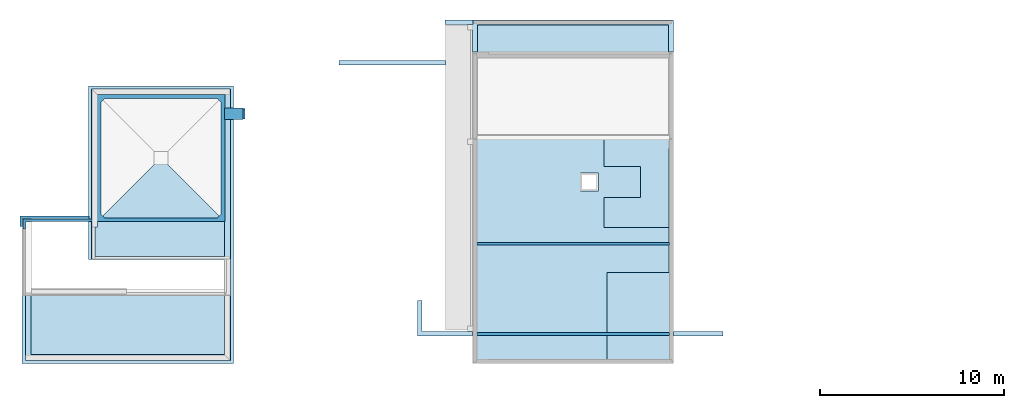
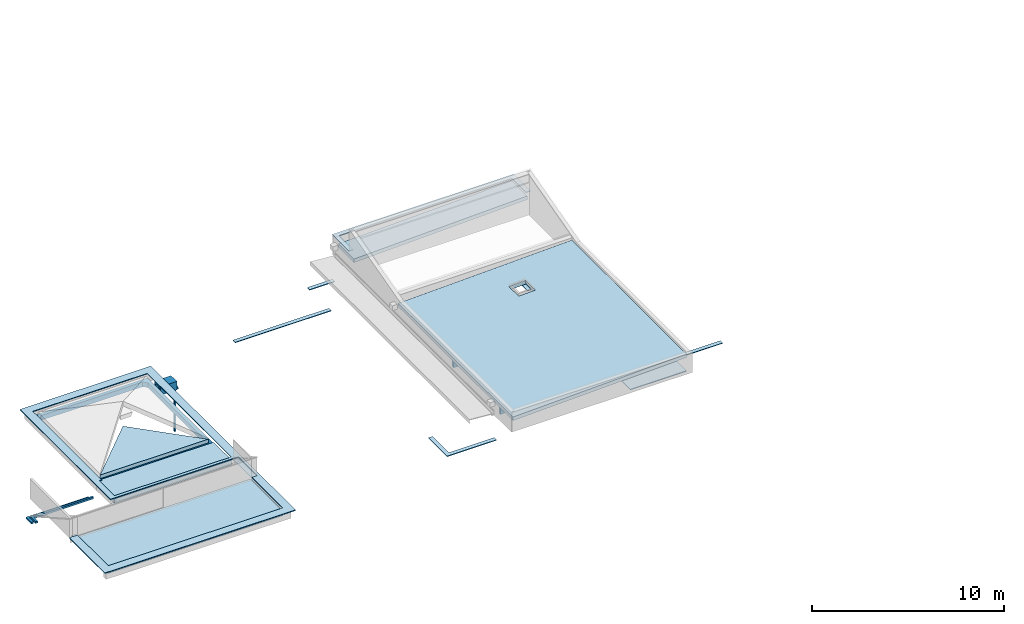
# One storey, part 1 of 8: 17 slabs, 4 beams, 3 openings.
"""IFC2X3 building model written with IfcOpenShell, lengths in metres."""

from ifc_helpers import new_model, entity, si_unit, converted_unit, derived_unit, direction, frame, frame_2d, origin, origin_2d_with_axis, place, context, subcontext, project, spatial, polyline, circle_curve, parameter, trimmed, segment, composite_curve, rectangle, outline, extrude, material, layer, layer_set, layer_usage, type_object, element, save


model = new_model("IFC2X3")

# Units and contexts
model_context = context("Model", 3, precision=1e-05, world=origin(), true_north=direction((6.123031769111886e-17, 1.0)))
body_context = subcontext(model_context, "Body", "Model", "MODEL_VIEW")
ifc_project = project(units=[si_unit("LENGTHUNIT", "METRE"), si_unit("AREAUNIT", "SQUARE_METRE"), si_unit("VOLUMEUNIT", "CUBIC_METRE"), converted_unit("PLANEANGLEUNIT", "DEGREE", entity("IfcRatioMeasure", 0.017453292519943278), si_unit("PLANEANGLEUNIT", "RADIAN"), dimensions=[0, 0, 0, 0, 0, 0, 0]), si_unit("MASSUNIT", "GRAM", prefix="KILO"), derived_unit("MASSDENSITYUNIT", [(si_unit("MASSUNIT", "GRAM", prefix="KILO"), 1), (si_unit("LENGTHUNIT", "METRE"), -3)]), derived_unit("MOMENTOFINERTIAUNIT", [(si_unit("LENGTHUNIT", "METRE"), 4)]), si_unit("TIMEUNIT", "SECOND"), si_unit("FREQUENCYUNIT", "HERTZ"), si_unit("THERMODYNAMICTEMPERATUREUNIT", "DEGREE_CELSIUS"), derived_unit("THERMALTRANSMITTANCEUNIT", [(si_unit("MASSUNIT", "GRAM", prefix="KILO"), 1), (si_unit("THERMODYNAMICTEMPERATUREUNIT", "KELVIN"), -1), (si_unit("TIMEUNIT", "SECOND"), -3)]), derived_unit("THERMALCONDUCTANCEUNIT", [(si_unit("MASSUNIT", "GRAM", prefix="KILO"), 1), (si_unit("LENGTHUNIT", "METRE"), 1), (si_unit("THERMODYNAMICTEMPERATUREUNIT", "KELVIN"), -1), (si_unit("TIMEUNIT", "SECOND"), -3)]), derived_unit("VOLUMETRICFLOWRATEUNIT", [(si_unit("LENGTHUNIT", "METRE"), 3), (si_unit("TIMEUNIT", "SECOND"), -1)]), derived_unit("MASSFLOWRATEUNIT", [(si_unit("MASSUNIT", "GRAM", prefix="KILO"), 1), (si_unit("TIMEUNIT", "SECOND"), -1)]), derived_unit("ROTATIONALFREQUENCYUNIT", [(si_unit("TIMEUNIT", "SECOND"), -1)]), si_unit("ELECTRICCURRENTUNIT", "AMPERE"), si_unit("ELECTRICVOLTAGEUNIT", "VOLT"), si_unit("POWERUNIT", "WATT"), si_unit("FORCEUNIT", "NEWTON", prefix="KILO"), si_unit("ILLUMINANCEUNIT", "LUX"), si_unit("LUMINOUSFLUXUNIT", "LUMEN"), si_unit("LUMINOUSINTENSITYUNIT", "CANDELA"), derived_unit("USERDEFINED", [(si_unit("MASSUNIT", "GRAM", prefix="KILO"), -1), (si_unit("LENGTHUNIT", "METRE"), -2), (si_unit("TIMEUNIT", "SECOND"), 3), (si_unit("LUMINOUSFLUXUNIT", "LUMEN"), 1)]), derived_unit("USERDEFINED", [(si_unit("MASSUNIT", "GRAM", prefix="KILO"), 1), (si_unit("LENGTHUNIT", "METRE"), 3), (si_unit("TIMEUNIT", "SECOND"), -3), (si_unit("ELECTRICCURRENTUNIT", "AMPERE"), -2)]), derived_unit("USERDEFINED", [(si_unit("LENGTHUNIT", "METRE"), 2), (si_unit("TIMEUNIT", "SECOND"), -2)]), derived_unit("SOUNDPOWERUNIT", [(si_unit("MASSUNIT", "GRAM", prefix="KILO"), 1), (si_unit("LENGTHUNIT", "METRE"), 2), (si_unit("TIMEUNIT", "SECOND"), -3)]), derived_unit("SOUNDPRESSUREUNIT", [(si_unit("MASSUNIT", "GRAM", prefix="KILO"), 1), (si_unit("LENGTHUNIT", "METRE"), -1), (si_unit("TIMEUNIT", "SECOND"), -2)]), derived_unit("LINEARVELOCITYUNIT", [(si_unit("LENGTHUNIT", "METRE"), 1), (si_unit("TIMEUNIT", "SECOND"), -1)]), si_unit("PRESSUREUNIT", "PASCAL"), derived_unit("USERDEFINED", [(si_unit("LENGTHUNIT", "METRE"), -2), (si_unit("MASSUNIT", "GRAM", prefix="KILO"), 1), (si_unit("TIMEUNIT", "SECOND"), -2)]), derived_unit("LINEARFORCEUNIT", [(si_unit("MASSUNIT", "GRAM", prefix="KILO"), 1), (si_unit("LENGTHUNIT", "METRE"), 1), (si_unit("TIMEUNIT", "SECOND"), -2), (si_unit("LENGTHUNIT", "METRE"), -1)]), derived_unit("PLANARFORCEUNIT", [(si_unit("MASSUNIT", "GRAM", prefix="KILO"), 1), (si_unit("LENGTHUNIT", "METRE"), 1), (si_unit("TIMEUNIT", "SECOND"), -2), (si_unit("LENGTHUNIT", "METRE"), -2)]), derived_unit("SPECIFICHEATCAPACITYUNIT", [(si_unit("LENGTHUNIT", "METRE"), 2), (si_unit("TIMEUNIT", "SECOND"), -2), (si_unit("THERMODYNAMICTEMPERATUREUNIT", "KELVIN"), -1)]), derived_unit("VAPORPERMEABILITYUNIT", [(si_unit("TIMEUNIT", "SECOND"), 1), (si_unit("LENGTHUNIT", "METRE"), -1)]), derived_unit("DYNAMICVISCOSITYUNIT", [(si_unit("MASSUNIT", "GRAM", prefix="KILO"), 1), (si_unit("LENGTHUNIT", "METRE"), -1), (si_unit("TIMEUNIT", "SECOND"), -1)]), derived_unit("THERMALEXPANSIONCOEFFICIENTUNIT", [(si_unit("THERMODYNAMICTEMPERATUREUNIT", "KELVIN"), -1)])], contexts=[model_context])

# Site, building, storey
site_placement = place(None, origin())
site = spatial("IfcSite", under=ifc_project, at=site_placement, Name="Default", CompositionType="ELEMENT")
building_placement = place(site_placement, origin())
building = spatial("IfcBuilding", under=site, at=building_placement, CompositionType="ELEMENT")
storey_placement = place(building_placement, frame((0.0, 0.0, 6.059999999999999)))
storey = spatial("IfcBuildingStorey", under=building, at=storey_placement, Name="TOITURE", CompositionType="ELEMENT", Elevation=6.059999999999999)

# Beams
ifc_material_1 = material(Name="Bois - Pin granuleux horizontal")
beam_type_1 = type_object("IfcBeamType", Name="Poutre-013 825176:Poutre-013 825176", PredefinedType="NOTDEFINED")
beam_1_placement = place(storey_placement, origin())
element("IfcBeam", 1, at=beam_1_placement, inside=storey, type_object=beam_type_1, material=ifc_material_1, Name="Poutre-013", ObjectType="Poutre-013 825176:Poutre-013 825176", context=body_context, shape_type="SweptSolid", body=[
    extrude(outline(polyline([(-5.227204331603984, -0.20000000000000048), (5.241172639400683, -0.20000000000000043), (5.227204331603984, 0.20000000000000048), (-5.241172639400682, 0.19999999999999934), (-5.227204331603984, -0.20000000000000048)])), frame((146.8507522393, 9.112209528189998, 1.2225486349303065), z_axis=(0.0, 1.0, 0.0), x_axis=(0.9993908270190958, 0.0, 0.03489949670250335)), (0.0, 0.0, 1.0), 0.15000000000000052),
])
ifc_material_2 = material(Name="Peinture - Jade pâle")
beam_type_2 = type_object("IfcBeamType", Name="Poutre-010 250417:Poutre-010 250417", PredefinedType="NOTDEFINED")
beam_2_placement = place(storey_placement, origin())
element("IfcBeam", 2, at=beam_2_placement, inside=storey, type_object=beam_type_2, material=ifc_material_2, Name="Poutre-002", ObjectType="Poutre-010 250417:Poutre-010 250417", context=body_context, shape_type="SweptSolid", body=[
    extrude(outline(composite_curve([segment(polyline([(0.7181249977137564, -0.27750000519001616), (0.813958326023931, -0.277500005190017)]), True, "CONTINUOUS"), segment(trimmed(circle_curve(frame_2d((0.3087797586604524, -0.0024999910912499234), x_axis=(0.8782986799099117, 0.4781123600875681)), 0.575178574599), [parameter(302.87561741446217)], [parameter(359.99999999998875)], True, "PARAMETER"), True, "CONTINUOUS"), segment(polyline([(0.8139583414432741, 0.27249999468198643), (0.71812500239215, 0.27249999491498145)]), True, "CONTINUOUS"), segment(polyline([(0.71812500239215, 0.27249999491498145), (0.5839583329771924, 0.05249999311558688)]), True, "CONTINUOUS"), segment(polyline([(0.5839583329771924, 0.05249999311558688), (-2.1160416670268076, 0.0525000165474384)]), True, "CONTINUOUS"), segment(polyline([(-2.1160416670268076, 0.0525000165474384), (-2.116041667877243, -0.04749998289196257)]), True, "CONTINUOUS"), segment(polyline([(-2.116041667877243, -0.04749998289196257), (0.5839583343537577, -0.04750000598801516)]), True, "CONTINUOUS"), segment(polyline([(0.5839583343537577, -0.04750000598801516), (0.7181249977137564, -0.27750000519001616)]), True, "CONTINUOUS")], self_intersect=False)), frame((128.900752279, 21.14970948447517, -0.9639583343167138), z_axis=(1.0, 0.0, 0.0), x_axis=(0.0, -8.50435300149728e-09, 1.0)), (0.0, 0.0, 1.0), 0.0999999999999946),
])
ifc_material_3 = material(Name="Enduit - Beige nature")
beam_type_3 = type_object("IfcBeamType", Name="Poutre-004 250637:Poutre-004 250637", PredefinedType="NOTDEFINED")
beam_3_placement = place(storey_placement, origin())
element("IfcBeam", 3, at=beam_3_placement, inside=storey, type_object=beam_type_3, material=ifc_material_3, Name="Poutre-002", ObjectType="Poutre-004 250637:Poutre-004 250637", context=body_context, shape_type="SweptSolid", body=[
    extrude(outline(polyline([(-0.26999999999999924, -0.30999999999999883), (0.27000000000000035, -0.30999999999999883), (0.27000000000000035, 0.31000000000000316), (-0.26999999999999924, 0.31000000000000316), (-0.26999999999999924, -0.30999999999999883)]), holes=[polyline([(0.17000000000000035, 0.22000000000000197), (0.17000000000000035, -0.21999999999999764), (-0.16999999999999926, -0.2099999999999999), (-0.18999999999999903, 0.0), (-0.16999999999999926, 0.2099999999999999), (0.17000000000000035, 0.22000000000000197)])]), frame((127.90075228, 21.1522094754, 0.019999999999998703), z_axis=(1.0, 0.0, 0.0), x_axis=(0.0, 0.0, 1.0)), (0.0, 0.0, 1.0), 0.9999999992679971),
])
beam_type_4 = type_object("IfcBeamType", Name="Poutre-013 804316:Poutre-013 804316", PredefinedType="NOTDEFINED")
beam_4_placement = place(storey_placement, origin())
element("IfcBeam", 4, at=beam_4_placement, inside=storey, type_object=beam_type_4, material=ifc_material_1, Name="Poutre-013", ObjectType="Poutre-013 804316:Poutre-013 804316", context=body_context, shape_type="SweptSolid", body=[
    extrude(outline(polyline([(-5.227204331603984, -0.20000000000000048), (5.241172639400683, -0.20000000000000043), (5.227204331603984, 0.20000000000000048), (-5.241172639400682, 0.19999999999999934), (-5.227204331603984, -0.20000000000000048)])), frame((146.8507522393, 14.012209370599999, 1.2225486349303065), z_axis=(0.0, 1.0, 0.0), x_axis=(0.9993908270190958, 0.0, 0.03489949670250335)), (0.0, 0.0, 1.0), 0.15000000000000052),
])

# Slabs
ifc_material_4 = material(Name="Peinture - Gris clair")
slab_type_1 = type_object("IfcSlabType", Name="Toit-01", PredefinedType="ROOF", material=ifc_material_4)
slab_1_placement = place(storey_placement, origin())
element("IfcSlab", 5, at=slab_1_placement, inside=storey, type_object=slab_type_1, Name="Toit-01 804010:Toit-01 804010", ObjectType="Toit-01 804010:Toit-01 804010", PredefinedType="ROOF", context=body_context, shape_type="SweptSolid", body=[
    extrude(outline(polyline([(-5.981500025, -5.234203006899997), (5.981500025, -5.234203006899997), (5.981500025, 5.234203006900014), (-5.981500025, 5.234203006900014), (-5.981500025, -5.234203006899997)]), holes=[polyline([(3.1595000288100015, -1.398288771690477), (3.1595000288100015, -0.39828877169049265), (4.159500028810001, -0.39828877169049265), (4.159500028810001, -1.398288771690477), (3.1595000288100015, -1.398288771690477)])]), frame((146.85075228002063, 13.787709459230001, 1.4230850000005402), z_axis=(-0.03497858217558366, 0.0, 0.9993880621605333), x_axis=(0.0, 1.0, 0.0)), (0.0, 0.0, 1.0), 0.2301408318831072),
])
slab_type_2 = type_object("IfcSlabType", Name="Toit-01", PredefinedType="ROOF", material=ifc_material_4)
slab_2_placement = place(storey_placement, origin())
element("IfcSlab", 6, at=slab_2_placement, inside=storey, type_object=slab_type_2, Name="Toit-01 831350:Toit-01 831350", ObjectType="Toit-01 831350:Toit-01 831350", PredefinedType="ROOF", context=body_context, shape_type="SweptSolid", body=[
    extrude(rectangle(XDim=0.2301408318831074, YDim=1.6130000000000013, at=frame_2d((-5.412337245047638e-16, -2.1649348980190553e-15), x_axis=(1.0, 0.0))), frame((141.61572728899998, 25.21170948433, 1.354999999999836), z_axis=(0.9993880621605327, 0.0, 0.03497858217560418), x_axis=(0.03497858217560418, 0.0, -0.9993880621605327)), (0.0, 0.0, 1.0), 10.468405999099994),
])

# Slab, opening
ifc_material_5 = material(Name="Métal - Zinc")
ifc_layer_1 = layer(ifc_material_5, 0.00869412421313)
ifc_layer_set_1 = layer_set([ifc_layer_1], Name="Toit de base:Toit-01")
ifc_layer_usage_1 = layer_usage(ifc_layer_set_1, "AXIS3", "NEGATIVE", 0.0)
slab_type_3 = type_object("IfcSlabType", Name="Toit-01", PredefinedType="ROOF")
slab_3_placement = place(storey_placement, origin())
slab_3 = element("IfcSlab", 7, at=slab_3_placement, inside=storey, type_object=slab_type_3, material=ifc_layer_usage_1, Name="Toit de base:Toit-01", ObjectType="Toit de base:Toit-01", PredefinedType="ROOF", context=body_context, shape_type="SweptSolid", body=[
    extrude(outline(polyline([(-5.9680000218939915, -9.912000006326), (1.571999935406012, -9.912000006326), (1.571999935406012, -0.6420000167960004), (-5.647999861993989, -0.6420000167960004), (-5.647999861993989, 4.538000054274), (4.8620000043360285, 4.538000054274), (4.8620000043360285, 1.1579999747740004), (5.181999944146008, 1.1579999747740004), (5.181999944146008, 4.857999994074), (-5.9680000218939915, 4.857999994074), (-5.9680000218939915, -9.912000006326)])), frame((122.242752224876, 12.595209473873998, 0.29000000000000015), z_axis=(0.0, 0.0, 1.0), x_axis=(-1.0, 0.0, 0.0)), (0.0, 0.0, 1.0), 0.008694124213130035),
])
opening_1_placement = place(storey_placement, origin())
element("IfcOpeningElement", 8, at=opening_1_placement, cuts=slab_3, Name="Toit de base:Toit-01:1", ObjectType="Opening", context=body_context, shape_type="SweptSolid", body=[
    extrude(outline(polyline([(-2.3933332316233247, -3.4466666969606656), (4.646666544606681, -3.4466666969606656), (4.646666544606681, 5.32333333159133), (-2.253333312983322, 5.32333333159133), (-2.253333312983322, -1.8766666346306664), (-2.3933332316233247, -1.8766666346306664), (-2.3933332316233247, -3.4466666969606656)])), frame((123.2440855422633, 16.863876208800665, 0.29000000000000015)), (0.0, 0.0, 1.0), 0.008694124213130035),
])

ifc_layer_2 = layer(ifc_material_5, 0.05)
ifc_layer_set_2 = layer_set([ifc_layer_2], Name="Toit de base:Toit-01:1559")
ifc_layer_usage_2 = layer_usage(ifc_layer_set_2, "AXIS3", "NEGATIVE", 0.0)
slab_type_4 = type_object("IfcSlabType", Name="Toit-01", PredefinedType="ROOF")
slab_4_placement = place(storey_placement, origin())
slab_4 = element("IfcSlab", 9, at=slab_4_placement, inside=storey, type_object=slab_type_4, material=ifc_layer_usage_2, Name="Toit de base:Toit-01:1559", ObjectType="Toit de base:Toit-01:1559", PredefinedType="ROOF", context=body_context, shape_type="SweptSolid", body=[
    extrude(outline(polyline([(-4.781666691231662, -5.171666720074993), (10.328333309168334, -5.171666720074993), (10.328333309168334, 2.708333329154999), (0.8883332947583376, 2.708333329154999), (0.8883332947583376, -5.001666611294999), (-1.0716666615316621, -5.001666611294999), (-1.0716666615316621, -4.681666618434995), (-4.291666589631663, -4.681666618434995), (-4.291666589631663, 5.828333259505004), (-1.0716666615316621, 5.828333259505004), (-1.0716666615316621, 6.318333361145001), (-4.781666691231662, 6.318333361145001), (-4.781666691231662, -5.171666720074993)])), frame((123.20908564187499, 12.34887617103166, 0.2899999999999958), z_axis=(0.0, 0.0, 1.0), x_axis=(0.0, 1.0, 0.0)), (0.0, 0.0, 1.0), 0.050000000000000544),
])
opening_2_placement = place(storey_placement, origin())
element("IfcOpeningElement", 10, at=opening_2_placement, cuts=slab_4, Name="Toit de base:Toit-01:1559:1", ObjectType="Opening", context=body_context, shape_type="SweptSolid", body=[
    extrude(outline(polyline([(-2.3933333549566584, -3.446666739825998), (4.64666671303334, -3.446666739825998), (4.64666671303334, 5.3233334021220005), (-2.2533333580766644, 5.3233334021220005), (-2.2533333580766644, -1.8766666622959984), (-2.3933333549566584, -1.8766666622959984), (-2.3933333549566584, -3.446666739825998)])), frame((123.24408554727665, 16.863876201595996, 0.28999999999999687)), (0.0, 0.0, 1.0), 0.050000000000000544),
])

# Slab
slab_5_placement = place(storey_placement, origin())
element("IfcSlab", 11, at=slab_5_placement, inside=storey, type_object=slab_type_4, material=ifc_layer_usage_2, Name="Toit de base:Toit-01:1559", ObjectType="Toit de base:Toit-01:1559", PredefinedType="ROOF", context=body_context, shape_type="SweptSolid", body=[
    extrude(outline(polyline([(-5.47022343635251, -0.8032202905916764), (-5.199776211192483, -0.8032202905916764), (-5.199776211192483, 0.6668490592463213), (5.200223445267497, 0.6668490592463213), (5.200223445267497, -0.8004083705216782), (5.469776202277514, -0.8004083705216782), (5.469776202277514, 0.9367796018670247), (-5.47022343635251, 0.9367796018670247), (-5.47022343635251, -0.8032202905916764)])), frame((146.85097109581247, 25.31886082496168, 1.9599999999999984)), (0.0, 0.0, 1.0), 0.050000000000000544),
])

# Slab, opening
ifc_material_6 = material(Name="Appareillage - Pierre taillé")
ifc_layer_3 = layer(ifc_material_6, 0.29999999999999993)
ifc_layer_set_3 = layer_set([ifc_layer_3], Name="Sol:Dalle-004")
ifc_layer_usage_3 = layer_usage(ifc_layer_set_3, "AXIS3", "POSITIVE", 0.0)
slab_type_5 = type_object("IfcSlabType", Name="Sol:Dalle-004", PredefinedType="FLOOR", material=ifc_layer_set_3)
slab_6_placement = place(storey_placement, frame((120.97075226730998, 15.28720948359, -0.2599999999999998)))
slab_6 = element("IfcSlab", 12, at=slab_6_placement, inside=storey, type_object=slab_type_5, material=ifc_layer_usage_3, Name="Sol:Dalle-004", ObjectType="Sol:Dalle-004", PredefinedType="FLOOR", context=body_context, shape_type="SweptSolid", body=[
    extrude(rectangle(XDim=6.940000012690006, YDim=6.920000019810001, at=origin_2d_with_axis()), frame((3.470000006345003, 3.4600000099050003, 0.30000000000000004), z_axis=(0.0, 0.0, -1.0), x_axis=(-1.0, 0.0, 0.0)), (0.0, 0.0, 1.0), 0.30000000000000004),
])
opening_3_placement = place(slab_6_placement, frame((3.470000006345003, 3.4599999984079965, 0.30000000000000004)))
element("IfcOpeningElement", 13, at=opening_3_placement, cuts=slab_6, Name="Sol:Dalle-004:2", ObjectType="Opening", context=body_context, shape_type="SweptSolid", body=[
    extrude(outline(polyline([(-3.0600000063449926, -3.2499999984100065), (3.06000000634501, -3.2499999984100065), (3.2600000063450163, -3.0499999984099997), (3.2600000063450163, 3.049999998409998), (3.06000000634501, 3.249999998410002), (-3.0600000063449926, 3.249999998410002), (-3.260000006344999, 3.049999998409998), (-3.260000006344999, -3.0499999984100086), (-3.0600000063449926, -3.2499999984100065)])), frame((0.0, 0.0, 0.0), z_axis=(0.0, 0.0, -1.0), x_axis=(1.0, 0.0, 0.0)), (0.0, 0.0, 1.0), 0.30000000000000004),
])

# Slabs
ifc_material_7 = material(Name="Toit - Tuiles françaises rouges")
ifc_layer_4 = layer(ifc_material_7, 0.271924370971)
ifc_layer_set_4 = layer_set([ifc_layer_4], Name="Toit de base:Toit-01:1534")
ifc_layer_usage_4 = layer_usage(ifc_layer_set_4, "AXIS3", "NEGATIVE", 0.0)
slab_type_6 = type_object("IfcSlabType", Name="Toit-01", PredefinedType="ROOF")
slab_7_placement = place(storey_placement, origin())
element("IfcSlab", 14, at=slab_7_placement, inside=storey, type_object=slab_type_6, material=ifc_layer_usage_4, Name="Toit de base:Toit-01:1534", ObjectType="Toit de base:Toit-01:1534", PredefinedType="ROOF", context=body_context, shape_type="SweptSolid", body=[
    extrude(outline(polyline([(-0.010000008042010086, -1.6249999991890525), (0.010000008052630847, -1.6249999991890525), (3.2600000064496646, 1.6249999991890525), (-3.2600000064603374, 1.6249999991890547), (-0.010000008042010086, -1.6249999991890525)])), frame((124.44075227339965, 17.122209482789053, 0.0), z_axis=(0.0, 0.0, 1.0), x_axis=(-1.0, 0.0, 0.0)), (0.0, 0.0, 1.0), 0.27192437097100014),
])
ifc_material_8 = material(Name="Etanchéité - Membrane souple")
ifc_layer_5 = layer(ifc_material_8, 0.005)
ifc_material_9 = material(Name="Isolation - Fibre de verre")
ifc_layer_6 = layer(ifc_material_9, 0.09499999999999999)
ifc_layer_7 = layer(ifc_material_6, 0.2)
ifc_layer_set_5 = layer_set([ifc_layer_5, ifc_layer_6, ifc_layer_7], Name="Sol:Dalle-007:1542")
ifc_layer_usage_5 = layer_usage(ifc_layer_set_5, "AXIS3", "POSITIVE", 0.0)
slab_type_7 = type_object("IfcSlabType", Name="Sol:Dalle-007:1542", PredefinedType="FLOOR", material=ifc_layer_set_5)
slab_8_placement = place(storey_placement, origin())
element("IfcSlab", 15, at=slab_8_placement, inside=storey, type_object=slab_type_7, material=ifc_layer_usage_5, Name="Sol:Dalle-007:1542", ObjectType="Sol:Dalle-007:1542", PredefinedType="FLOOR", context=body_context, shape_type="SweptSolid", body=[
    extrude(rectangle(XDim=3.3899999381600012, YDim=10.540000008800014, at=origin_2d_with_axis()), frame((122.6307522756, 9.74220944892, 0.14000000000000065), z_axis=(0.0, 0.0, -1.0), x_axis=(0.0, 1.0, 0.0)), (0.0, 0.0, 1.0), 0.30000000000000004),
])
slab_9_placement = place(storey_placement, origin())
element("IfcSlab", 16, at=slab_9_placement, inside=storey, type_object=slab_type_7, material=ifc_layer_usage_5, Name="Sol:Dalle-007:1542", ObjectType="Sol:Dalle-007:1542", PredefinedType="FLOOR", context=body_context, shape_type="SweptSolid", body=[
    extrude(outline(polyline([(-1.156666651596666, -2.4000000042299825), (0.4333333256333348, -2.4000000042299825), (0.4333333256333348, -2.2600000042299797), (0.7233333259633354, -2.2600000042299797), (0.7233333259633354, 4.660000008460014), (-1.156666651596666, 4.660000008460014), (-1.156666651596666, -2.4000000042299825)])), frame((123.24075227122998, 14.563876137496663, 0.13999999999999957), z_axis=(0.0, 0.0, -1.0), x_axis=(0.0, 1.0, 0.0)), (0.0, 0.0, 1.0), 0.30000000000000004),
])
ifc_layer_8 = layer(ifc_material_5, 0.12)
ifc_layer_set_6 = layer_set([ifc_layer_8], Name="Toit de base:Toit-01:1728")
ifc_layer_usage_6 = layer_usage(ifc_layer_set_6, "AXIS3", "NEGATIVE", 0.0)
slab_type_8 = type_object("IfcSlabType", Name="Toit-01", PredefinedType="ROOF")
slab_10_placement = place(storey_placement, origin())
element("IfcSlab", 17, at=slab_10_placement, inside=storey, type_object=slab_type_8, material=ifc_layer_usage_6, Name="Toit de base:Toit-01:1728", ObjectType="Toit de base:Toit-01:1728", PredefinedType="ROOF", context=body_context, shape_type="SweptSolid", body=[
    extrude(outline(polyline([(-2.4533333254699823, -0.22333332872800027), (1.2966666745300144, -0.22333332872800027), (1.2966666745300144, 0.32666665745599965), (1.1566666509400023, 0.32666665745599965), (1.1566666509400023, -0.10333332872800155), (-2.4533333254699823, -0.10333332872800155), (-2.4533333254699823, -0.22333332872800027)])), frame((118.2274189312, 15.203876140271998, -0.9599999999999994), z_axis=(0.0, 0.0, 1.0), x_axis=(-1.0, 0.0, 0.0)), (0.0, 0.0, 1.0), 0.11999999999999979),
])
ifc_material_10 = material(Name="Plâtre - Plaques de plâtre")
ifc_layer_9 = layer(ifc_material_10, 0.05)
ifc_layer_set_7 = layer_set([ifc_layer_9], Name="Sol:Dalle-005:1730")
ifc_layer_usage_7 = layer_usage(ifc_layer_set_7, "AXIS3", "POSITIVE", 0.0)
slab_type_9 = type_object("IfcSlabType", Name="Sol:Dalle-005:1730", PredefinedType="FLOOR", material=ifc_layer_set_7)
slab_11_placement = place(storey_placement, origin())
element("IfcSlab", 18, at=slab_11_placement, inside=storey, type_object=slab_type_9, material=ifc_layer_usage_7, Name="Sol:Dalle-005:1730", ObjectType="Sol:Dalle-005:1730", PredefinedType="FLOOR", context=body_context, shape_type="SweptSolid", body=[
    extrude(rectangle(XDim=4.710999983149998, YDim=3.3909999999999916, at=frame_2d((-6.661338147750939e-16, -8.659739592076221e-15), x_axis=(1.0, 0.0))), frame((150.38625228, 10.161709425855, 0.7599999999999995), z_axis=(0.0, 0.0, -1.0), x_axis=(0.0, 1.0, 0.0)), (0.0, 0.0, 1.0), 0.04999999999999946),
])
slab_12_placement = place(storey_placement, origin())
element("IfcSlab", 19, at=slab_12_placement, inside=storey, type_object=slab_type_9, material=ifc_layer_usage_7, Name="Sol:Dalle-005:1730", ObjectType="Sol:Dalle-005:1730", PredefinedType="FLOOR", context=body_context, shape_type="SweptSolid", body=[
    extrude(outline(polyline([(0.8299999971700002, -1.3775000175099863), (2.4800000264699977, -1.3775000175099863), (2.4800000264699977, 2.1525000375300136), (-2.480000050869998, 2.1525000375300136), (-2.480000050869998, -1.3775000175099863), (-0.8299999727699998, -1.3775000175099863), (-0.8299999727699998, 0.6024999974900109), (0.8299999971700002, 0.6024999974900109), (0.8299999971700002, -1.3775000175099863)])), frame((149.91825226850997, 17.447209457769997, 0.7600000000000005), z_axis=(0.0, 0.0, -1.0), x_axis=(0.0, 1.0, 0.0)), (0.0, 0.0, 1.0), 0.04999999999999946),
])
ifc_layer_10 = layer(ifc_material_5, 0.04)
ifc_layer_set_8 = layer_set([ifc_layer_10], Name="Toit de base:Toit-01:1731")
ifc_layer_usage_8 = layer_usage(ifc_layer_set_8, "AXIS3", "NEGATIVE", 0.0)
slab_type_10 = type_object("IfcSlabType", Name="Toit-01", PredefinedType="ROOF")
slab_13_placement = place(storey_placement, origin())
element("IfcSlab", 20, at=slab_13_placement, inside=storey, type_object=slab_type_10, material=ifc_layer_usage_8, Name="Toit de base:Toit-01:1731", ObjectType="Toit de base:Toit-01:1731", PredefinedType="ROOF", context=body_context, shape_type="SweptSolid", body=[
    extrude(rectangle(XDim=2.694999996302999, YDim=0.23999999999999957, at=origin_2d_with_axis()), frame((153.6482522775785, 9.18720952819, 0.71)), (0.0, 0.0, 1.0), 0.03999999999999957),
])
slab_14_placement = place(storey_placement, origin())
element("IfcSlab", 21, at=slab_14_placement, inside=storey, type_object=slab_type_10, material=ifc_layer_usage_8, Name="Toit de base:Toit-01:1731", ObjectType="Toit de base:Toit-01:1731", PredefinedType="ROOF", context=body_context, shape_type="SweptSolid", body=[
    extrude(outline(polyline([(-0.7266666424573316, -1.9133333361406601), (-0.4866666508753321, -1.9133333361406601), (-0.4866666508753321, 0.836666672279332), (1.213333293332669, 0.836666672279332), (1.213333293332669, 1.0766666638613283), (-0.7266666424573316, 1.0766666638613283), (-0.7266666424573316, -1.9133333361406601)])), frame((139.4574189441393, 9.793876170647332, -0.6900000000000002), z_axis=(0.0, 0.0, 1.0), x_axis=(0.0, 1.0, 0.0)), (0.0, 0.0, 1.0), 0.03999999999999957),
])
slab_15_placement = place(storey_placement, origin())
element("IfcSlab", 22, at=slab_15_placement, inside=storey, type_object=slab_type_10, material=ifc_layer_usage_8, Name="Toit de base:Toit-01:1731", ObjectType="Toit de base:Toit-01:1731", PredefinedType="ROOF", context=body_context, shape_type="SweptSolid", body=[
    extrude(rectangle(XDim=0.24000011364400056, YDim=5.789999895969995, at=frame_2d((0.0, 8.659739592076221e-15), x_axis=(1.0, 0.0))), frame((137.02575233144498, 23.937183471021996, -0.8899999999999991), z_axis=(0.0, 0.0, 1.0), x_axis=(0.0, -1.0, 0.0)), (0.0, 0.0, 1.0), 0.03999999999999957),
])
slab_16_placement = place(storey_placement, origin())
element("IfcSlab", 23, at=slab_16_placement, inside=storey, type_object=slab_type_10, material=ifc_layer_usage_8, Name="Toit de base:Toit-01:1731", ObjectType="Toit de base:Toit-01:1731", PredefinedType="ROOF", context=body_context, shape_type="SweptSolid", body=[
    extrude(rectangle(XDim=0.24000011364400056, YDim=1.5199998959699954, at=frame_2d((0.0, 8.659739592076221e-15), x_axis=(1.0, 0.0))), frame((140.640752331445, 26.137209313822, -0.8899999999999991), z_axis=(0.0, 0.0, 1.0), x_axis=(0.0, -1.0, 0.0)), (0.0, 0.0, 1.0), 0.03999999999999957),
])
ifc_material_11 = material(Name="Métal - Fer")
ifc_layer_11 = layer(ifc_material_11, 0.12)
ifc_layer_set_9 = layer_set([ifc_layer_11], Name="Toit de base:Toit-01:1736")
ifc_layer_usage_9 = layer_usage(ifc_layer_set_9, "AXIS3", "NEGATIVE", 0.0)
slab_type_11 = type_object("IfcSlabType", Name="Toit-01", PredefinedType="ROOF")
slab_17_placement = place(storey_placement, origin())
element("IfcSlab", 24, at=slab_17_placement, inside=storey, type_object=slab_type_11, material=ifc_layer_usage_9, Name="Toit de base:Toit-01:1736", ObjectType="Toit de base:Toit-01:1736", PredefinedType="ROOF", context=body_context, shape_type="SweptSolid", body=[
    extrude(outline(polyline([(-2.4533333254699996, -0.22333332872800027), (1.296666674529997, -0.22333332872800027), (1.296666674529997, 0.32666665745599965), (1.156666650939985, 0.32666665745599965), (1.156666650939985, -0.10333332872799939), (-2.4533333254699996, -0.10333332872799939), (-2.4533333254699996, -0.22333332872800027)])), frame((118.06741892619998, 15.363876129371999, -1.0400000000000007), z_axis=(0.0, 0.0, 1.0), x_axis=(-1.0, 0.0, 0.0)), (0.0, 0.0, 1.0), 0.11999999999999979),
])

save(model, "model.ifc")
